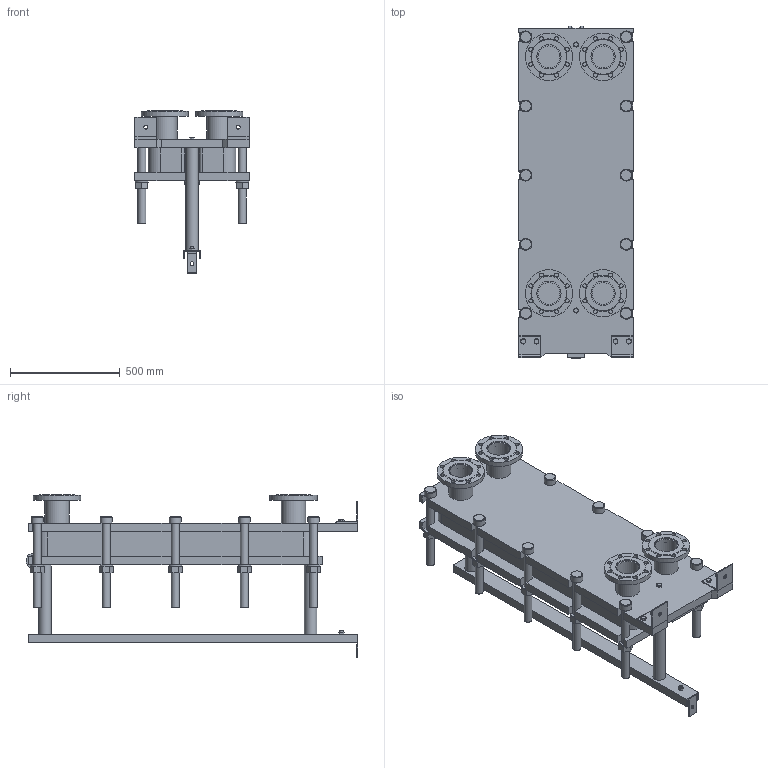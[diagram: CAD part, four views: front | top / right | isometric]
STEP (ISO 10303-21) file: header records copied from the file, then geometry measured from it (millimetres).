
FILE_DESCRIPTION(/* description */ (''),/* implementation_level */ '2;1');
FILE_NAME(/* name */ 'C:\Users\zhuro\Desktop\ENCO\TO\ЭН-04\ЭН-0,5-04-32-1.stp',/* time_stamp */ '2022-06-06T10:46:46+03:00',/* author */ ('zhuro'),/* organization */ (''),/* preprocessor_version */ 'ST-DEVELOPER v18.1',/* originating_system */ 'Autodesk Inventor 2022',/* authorisation */ '');
FILE_SCHEMA (('AUTOMOTIVE_DESIGN { 1 0 10303 214 3 1 1 }'));
Length unit declared in the file: millimetre
Products named in the file (1): ЭН-0,5-04-32-1
Bounding box: 520 x 1510 x 741 mm (x, y, z)
Volume: 122718370.4 mm3; surface area: 6859935.5 mm2
Topology: 45 solids, 45 shells, 668 faces, 1611 edges, 1048 vertices
Faces by surface type: plane 457, cylinder 166, cone 39, torus 6
Full cylindrical faces by diameter (mm): 8 x4, 10 x2, 16 x8, 18 x35, 36 x25, 40 x2, 42 x1, 45 x4, 54 x10, 57 x2, 60 x10, 68 x2, 100 x4, 110 x8, 215 x4
Entity records: 23607 total; most frequent: CARTESIAN_POINT 7348, DIRECTION 3371, ORIENTED_EDGE 3142, EDGE_CURVE 1571, AXIS2_PLACEMENT_3D 1199, VERTEX_POINT 1044, LINE 973, VECTOR 973
